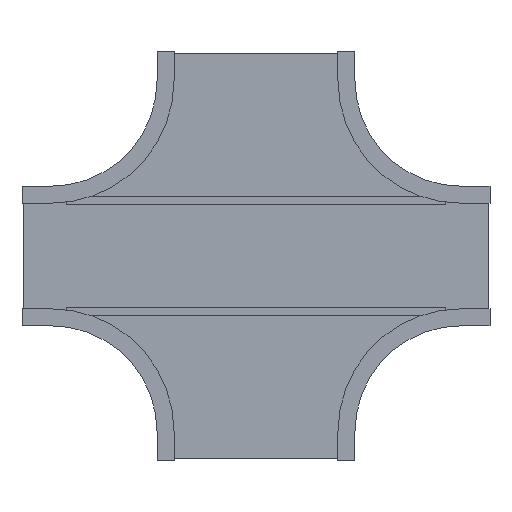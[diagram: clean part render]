
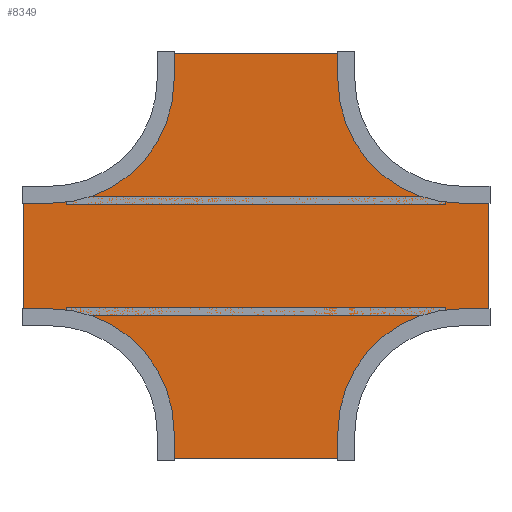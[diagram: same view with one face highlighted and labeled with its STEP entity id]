
A CAD part, front view. The second image highlights one B-rep face of the part: STEP entity #8349.
In plain terms, the highlighted planar face has unit normal (0, -1, 0).
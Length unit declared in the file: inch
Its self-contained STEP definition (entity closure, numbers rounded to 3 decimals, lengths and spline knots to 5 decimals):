
#8046=DIRECTION('',(0.,0.,1.));
#8047=VECTOR('',#8046,11.875);
#8048=CARTESIAN_POINT('',(-23.875,0.,-5.9375));
#8049=LINE('',#8048,#8047);
#8050=DIRECTION('',(1.,0.,0.));
#8051=VECTOR('',#8050,2.785);
#8052=CARTESIAN_POINT('',(-23.875,0.,5.9375));
#8053=LINE('',#8052,#8051);
#8054=CARTESIAN_POINT('',(-21.09,0.,18.09));
#8055=DIRECTION('',(0.,-1.,0.));
#8056=DIRECTION('',(0.,0.,-1.));
#8057=AXIS2_PLACEMENT_3D('',#8054,#8055,#8056);
#8059=DIRECTION('',(0.,0.,1.));
#8060=VECTOR('',#8059,2.785);
#8061=CARTESIAN_POINT('',(-8.9375,0.,18.09));
#8062=LINE('',#8061,#8060);
#8063=DIRECTION('',(1.,0.,0.));
#8064=VECTOR('',#8063,17.875);
#8065=CARTESIAN_POINT('',(-8.9375,0.,20.875));
#8066=LINE('',#8065,#8064);
#8067=DIRECTION('',(0.,0.,-1.));
#8068=VECTOR('',#8067,2.785);
#8069=CARTESIAN_POINT('',(8.9375,0.,20.875));
#8070=LINE('',#8069,#8068);
#8071=CARTESIAN_POINT('',(21.09,0.,18.09));
#8072=DIRECTION('',(0.,-1.,0.));
#8073=DIRECTION('',(-1.,0.,0.));
#8074=AXIS2_PLACEMENT_3D('',#8071,#8072,#8073);
#8076=DIRECTION('',(1.,0.,0.));
#8077=VECTOR('',#8076,2.785);
#8078=CARTESIAN_POINT('',(21.09,0.,5.9375));
#8079=LINE('',#8078,#8077);
#8080=DIRECTION('',(0.,0.,-1.));
#8081=VECTOR('',#8080,11.875);
#8082=CARTESIAN_POINT('',(23.875,0.,5.9375));
#8083=LINE('',#8082,#8081);
#8084=DIRECTION('',(-1.,0.,0.));
#8085=VECTOR('',#8084,2.785);
#8086=CARTESIAN_POINT('',(23.875,0.,-5.9375));
#8087=LINE('',#8086,#8085);
#8088=CARTESIAN_POINT('',(21.09,0.,-18.09));
#8089=DIRECTION('',(0.,-1.,0.));
#8090=DIRECTION('',(0.,0.,1.));
#8091=AXIS2_PLACEMENT_3D('',#8088,#8089,#8090);
#8093=DIRECTION('',(0.,0.,-1.));
#8094=VECTOR('',#8093,2.785);
#8095=CARTESIAN_POINT('',(8.9375,0.,-18.09));
#8096=LINE('',#8095,#8094);
#8097=DIRECTION('',(-1.,0.,0.));
#8098=VECTOR('',#8097,17.875);
#8099=CARTESIAN_POINT('',(8.9375,0.,-20.875));
#8100=LINE('',#8099,#8098);
#8101=DIRECTION('',(0.,0.,1.));
#8102=VECTOR('',#8101,2.785);
#8103=CARTESIAN_POINT('',(-8.9375,0.,-20.875));
#8104=LINE('',#8103,#8102);
#8105=CARTESIAN_POINT('',(-21.09,0.,-18.09));
#8106=DIRECTION('',(0.,-1.,0.));
#8107=DIRECTION('',(1.,0.,0.));
#8108=AXIS2_PLACEMENT_3D('',#8105,#8106,#8107);
#8110=DIRECTION('',(-1.,0.,0.));
#8111=VECTOR('',#8110,2.785);
#8112=CARTESIAN_POINT('',(-21.09,0.,-5.9375));
#8113=LINE('',#8112,#8111);
#8246=CARTESIAN_POINT('',(-23.875,0.,-5.9375));
#8247=CARTESIAN_POINT('',(-23.875,0.,5.9375));
#8248=VERTEX_POINT('',#8246);
#8249=VERTEX_POINT('',#8247);
#8250=CARTESIAN_POINT('',(-21.09,0.,5.9375));
#8251=VERTEX_POINT('',#8250);
#8252=CARTESIAN_POINT('',(-8.9375,0.,18.09));
#8253=VERTEX_POINT('',#8252);
#8254=CARTESIAN_POINT('',(-8.9375,0.,20.875));
#8255=VERTEX_POINT('',#8254);
#8256=CARTESIAN_POINT('',(8.9375,0.,20.875));
#8257=VERTEX_POINT('',#8256);
#8258=CARTESIAN_POINT('',(8.9375,0.,18.09));
#8259=VERTEX_POINT('',#8258);
#8260=CARTESIAN_POINT('',(21.09,0.,5.9375));
#8261=VERTEX_POINT('',#8260);
#8262=CARTESIAN_POINT('',(23.875,0.,5.9375));
#8263=VERTEX_POINT('',#8262);
#8264=CARTESIAN_POINT('',(23.875,0.,-5.9375));
#8265=VERTEX_POINT('',#8264);
#8266=CARTESIAN_POINT('',(21.09,0.,-5.9375));
#8267=VERTEX_POINT('',#8266);
#8268=CARTESIAN_POINT('',(8.9375,0.,-18.09));
#8269=VERTEX_POINT('',#8268);
#8270=CARTESIAN_POINT('',(8.9375,0.,-20.875));
#8271=VERTEX_POINT('',#8270);
#8272=CARTESIAN_POINT('',(-8.9375,0.,-20.875));
#8273=VERTEX_POINT('',#8272);
#8274=CARTESIAN_POINT('',(-8.9375,0.,-18.09));
#8275=VERTEX_POINT('',#8274);
#8276=CARTESIAN_POINT('',(-21.09,0.,-5.9375));
#8277=VERTEX_POINT('',#8276);
#8310=CARTESIAN_POINT('',(0.,0.,0.));
#8311=DIRECTION('',(0.,1.,0.));
#8312=DIRECTION('',(1.,0.,0.));
#8313=AXIS2_PLACEMENT_3D('',#8310,#8311,#8312);
#8314=PLANE('',#8313);
#8316=ORIENTED_EDGE('',*,*,#8315,.T.);
#8318=ORIENTED_EDGE('',*,*,#8317,.T.);
#8320=ORIENTED_EDGE('',*,*,#8319,.T.);
#8322=ORIENTED_EDGE('',*,*,#8321,.T.);
#8324=ORIENTED_EDGE('',*,*,#8323,.T.);
#8326=ORIENTED_EDGE('',*,*,#8325,.T.);
#8328=ORIENTED_EDGE('',*,*,#8327,.T.);
#8330=ORIENTED_EDGE('',*,*,#8329,.T.);
#8332=ORIENTED_EDGE('',*,*,#8331,.T.);
#8334=ORIENTED_EDGE('',*,*,#8333,.T.);
#8336=ORIENTED_EDGE('',*,*,#8335,.T.);
#8338=ORIENTED_EDGE('',*,*,#8337,.T.);
#8340=ORIENTED_EDGE('',*,*,#8339,.T.);
#8342=ORIENTED_EDGE('',*,*,#8341,.T.);
#8344=ORIENTED_EDGE('',*,*,#8343,.T.);
#8346=ORIENTED_EDGE('',*,*,#8345,.T.);
#8347=EDGE_LOOP('',(#8316,#8318,#8320,#8322,#8324,#8326,#8328,#8330,#8332,#8334,
#8336,#8338,#8340,#8342,#8344,#8346));
#8348=FACE_OUTER_BOUND('',#8347,.F.);
#8349=ADVANCED_FACE('',(#8348),#8314,.F.);
#8058=CIRCLE('',#8057,12.1525);
#8075=CIRCLE('',#8074,12.1525);
#8092=CIRCLE('',#8091,12.1525);
#8109=CIRCLE('',#8108,12.1525);
#8315=EDGE_CURVE('',#8248,#8249,#8049,.T.);
#8317=EDGE_CURVE('',#8249,#8251,#8053,.T.);
#8319=EDGE_CURVE('',#8251,#8253,#8058,.T.);
#8321=EDGE_CURVE('',#8253,#8255,#8062,.T.);
#8323=EDGE_CURVE('',#8255,#8257,#8066,.T.);
#8325=EDGE_CURVE('',#8257,#8259,#8070,.T.);
#8327=EDGE_CURVE('',#8259,#8261,#8075,.T.);
#8329=EDGE_CURVE('',#8261,#8263,#8079,.T.);
#8331=EDGE_CURVE('',#8263,#8265,#8083,.T.);
#8333=EDGE_CURVE('',#8265,#8267,#8087,.T.);
#8335=EDGE_CURVE('',#8267,#8269,#8092,.T.);
#8337=EDGE_CURVE('',#8269,#8271,#8096,.T.);
#8339=EDGE_CURVE('',#8271,#8273,#8100,.T.);
#8341=EDGE_CURVE('',#8273,#8275,#8104,.T.);
#8343=EDGE_CURVE('',#8275,#8277,#8109,.T.);
#8345=EDGE_CURVE('',#8277,#8248,#8113,.T.);
